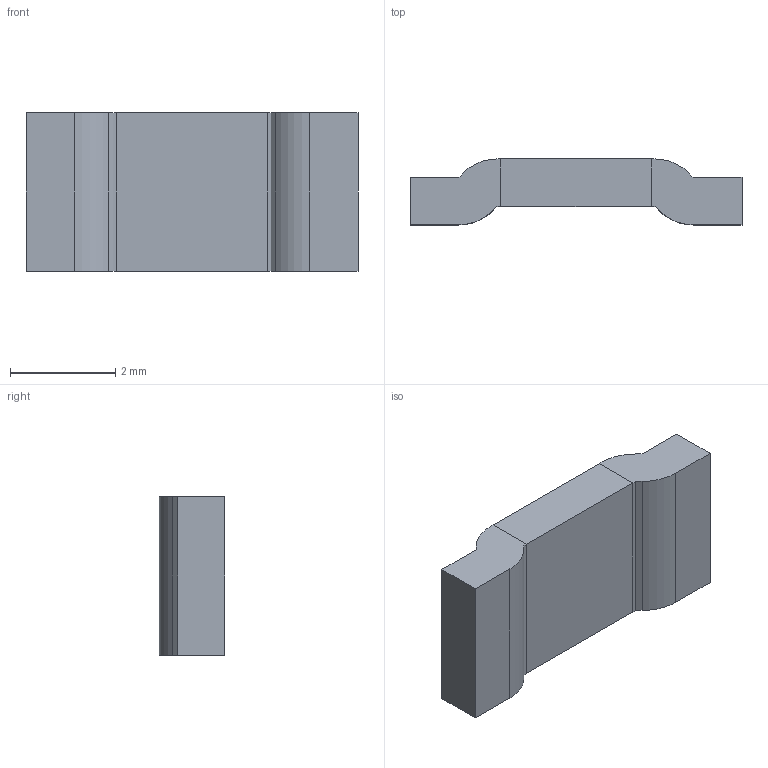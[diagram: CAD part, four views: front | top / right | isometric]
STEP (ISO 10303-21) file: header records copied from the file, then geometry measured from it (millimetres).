
FILE_DESCRIPTION (( 'STEP AP203' ), '1' );
FILE_NAME ('2512-0.5m次.STEP', '2023-11-22T07:27:04', ( 'meks@163.com' ), ( '' ), 'SwSTEP 2.0', 'SolidWorks 2020', '' );
FILE_SCHEMA (( 'CONFIG_CONTROL_DESIGN' ));
Length unit declared in the file: millimetre
Products named in the file (1): 2512-0.5m次
Bounding box: 6.3 x 1.25 x 3 mm (x, y, z)
Volume: 17.6 mm3; surface area: 67 mm2
Topology: 3 solids, 3 shells, 30 faces, 72 edges, 48 vertices
Faces by surface type: plane 26, cylinder 4
Entity records: 937 total; most frequent: CARTESIAN_POINT 151, ORIENTED_EDGE 144, DIRECTION 142, EDGE_CURVE 72, VECTOR 64, LINE 64, VERTEX_POINT 48, AXIS2_PLACEMENT_3D 39
